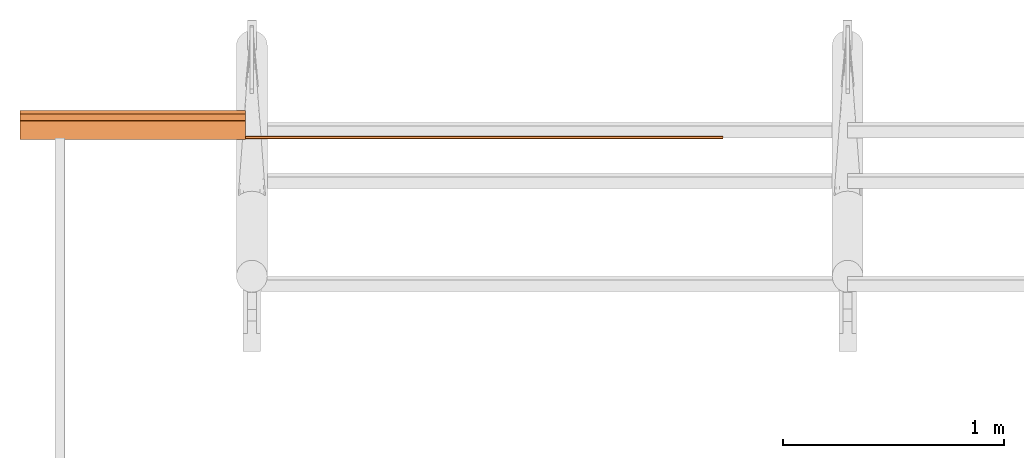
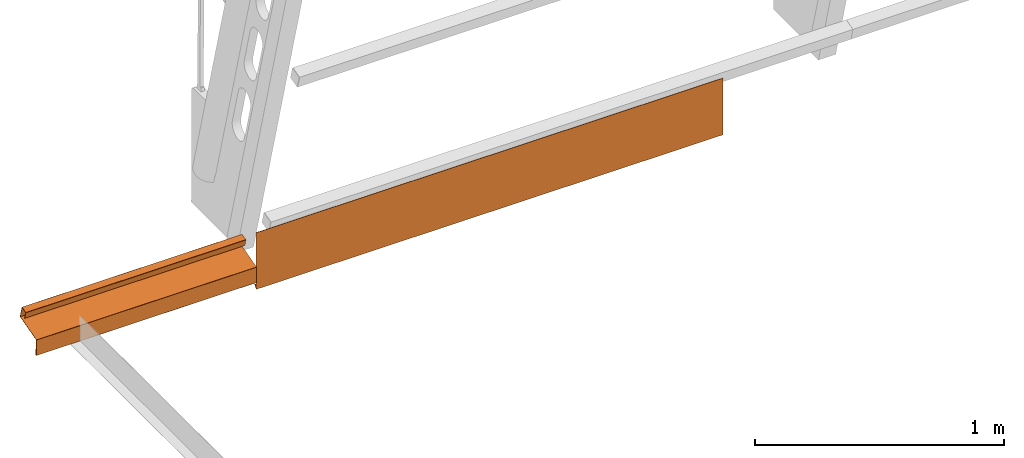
# One storey, part 1 of 3: 2 proxies.
"""IFC2X3 building model written with IfcOpenShell, lengths in millimetres."""

import ifcopenshell
import ifcopenshell.guid

model = None  # the IFC model being written
_history = None  # IfcOwnerHistory: only IFC2X3 demands one
_inside = {}  # id of a spatial element -> (the spatial element, [elements in it])
_under = {}  # id of a project, library or spatial element -> (it, [spatial elements below it])
_declared = {}  # id of a project -> (the project, [libraries it declares])
_typed = {}  # id of a type object -> (the type object, [elements of that type])
_made_of = {}  # id of a material, layer set ... -> (it, [elements and type objects made of it])


def new_model(schema):
    """Start an empty IFC model of exactly this schema.

    Asked for "IFC4X3", IfcOpenShell would pick the latest addendum, in which some entities
    have other attributes; the version numbers below select the first issue.
    IFC2X3 requires an IfcOwnerHistory on every rooted entity: one is made here for all.
    """
    global model, _history
    if schema == "IFC4X3":
        model = ifcopenshell.file(schema_version=(4, 3, 0, 0))
    else:
        model = ifcopenshell.file(schema=schema)
    _inside.clear()
    _under.clear()
    _declared.clear()
    _typed.clear()
    _made_of.clear()
    _history = None
    if model.schema == "IFC2X3":
        org = make("IfcOrganization", Name="unknown")
        user = make(
            "IfcPersonAndOrganization",
            ThePerson=make("IfcPerson", FamilyName="unknown"),
            TheOrganization=org,
        )
        app = make(
            "IfcApplication",
            ApplicationDeveloper=org,
            Version="unknown",
            ApplicationFullName="unknown",
            ApplicationIdentifier="unknown",
        )
        _history = make(
            "IfcOwnerHistory",
            OwningUser=user,
            OwningApplication=app,
            ChangeAction="ADDED",
            CreationDate=0,
        )
    return model


def make(cls, **values):
    """One entity of the class cls with the attributes given. An attribute that is None is left unset."""
    return model.create_entity(
        cls, **{name: value for name, value in values.items() if value is not None}
    )


def entity(cls, *values):
    """Any entity or typed value of the class cls, its attributes in the order of the schema. None: left unset."""
    e = model.create_entity(cls)
    for i, value in enumerate(values):
        if value is not None:
            e[i] = value
    return e


def rooted(cls, **values):
    """An entity with a GlobalId (a new one), such as an element, a storey or a relation."""
    return make(cls, GlobalId=ifcopenshell.guid.new(), OwnerHistory=_history, **values)


def si_unit(unit_type, name, prefix=None):
    """IfcSIUnit, for example si_unit("LENGTHUNIT", "METRE", prefix="MILLI")."""
    return make("IfcSIUnit", UnitType=unit_type, Prefix=prefix, Name=name)


def converted_unit(unit_type, name, factor, base, dimensions=None, offset=None):
    """IfcConversionBasedUnit, such as the inch: factor (a typed value) times the base unit."""
    return make(
        "IfcConversionBasedUnit"
        if offset is None
        else "IfcConversionBasedUnitWithOffset",
        ConversionOffset=offset,
        Dimensions=None
        if dimensions is None
        else entity("IfcDimensionalExponents", *dimensions),
        UnitType=unit_type,
        Name=name,
        ConversionFactor=make(
            "IfcMeasureWithUnit", ValueComponent=factor, UnitComponent=base
        ),
    )


def derived_unit(unit_type, elements):
    """IfcDerivedUnit: a product of units, each with its exponent."""
    return make(
        "IfcDerivedUnit",
        Elements=[
            make("IfcDerivedUnitElement", Unit=unit, Exponent=power)
            for unit, power in elements
        ],
        UnitType=unit_type,
    )


def assignment(units):
    """IfcUnitAssignment: the units of a project."""
    return None if units is None else make("IfcUnitAssignment", Units=units)


def point(xyz):
    """IfcCartesianPoint."""
    return None if xyz is None else make("IfcCartesianPoint", Coordinates=xyz)


def direction(xyz):
    """IfcDirection."""
    return None if xyz is None else make("IfcDirection", DirectionRatios=xyz)


def frame(location, z_axis=None, x_axis=None):
    """IfcAxis2Placement3D, a coordinate frame: its origin and axes. An axis left out is left unset."""
    return make(
        "IfcAxis2Placement3D",
        Location=point(location),
        Axis=direction(z_axis),
        RefDirection=direction(x_axis),
    )


def frame_2d(location, x_axis=None):
    """IfcAxis2Placement2D, a coordinate frame in the plane: its origin and x axis."""
    return make(
        "IfcAxis2Placement2D", Location=point(location), RefDirection=direction(x_axis)
    )


def origin():
    """The frame at (0, 0, 0) with its axes left unset."""
    return frame((0.0, 0.0, 0.0))


def origin_with_axes():
    """The frame at (0, 0, 0) with the z axis (0, 0, 1) and the x axis (1, 0, 0) written out."""
    return frame((0.0, 0.0, 0.0), z_axis=(0.0, 0.0, 1.0), x_axis=(1.0, 0.0, 0.0))


def place(relative_to, where):
    """IfcLocalPlacement: puts the frame where relative to a parent placement (None: the world)."""
    return make(
        "IfcLocalPlacement", PlacementRelTo=relative_to, RelativePlacement=where
    )


def context(
    kind, dimensions, precision=None, world=None, true_north=None, identifier=None
):
    """IfcGeometricRepresentationContext, for example the 3D "Model" context."""
    return make(
        "IfcGeometricRepresentationContext",
        ContextIdentifier=identifier,
        ContextType=kind,
        CoordinateSpaceDimension=dimensions,
        Precision=precision,
        WorldCoordinateSystem=world,
        TrueNorth=true_north,
    )


def subcontext(parent, identifier, kind, view, scale=None):
    """IfcGeometricRepresentationSubContext, for example "Body" below "Model"."""
    return make(
        "IfcGeometricRepresentationSubContext",
        ContextIdentifier=identifier,
        ContextType=kind,
        ParentContext=parent,
        TargetScale=scale,
        TargetView=view,
    )


def project(units=None, contexts=None):
    """IfcProject with its units and contexts."""
    return rooted(
        "IfcProject",
        Name="project",
        RepresentationContexts=contexts,
        UnitsInContext=assignment(units),
    )


def spatial(cls, under=None, at=None, **own):
    """A site, building, storey or space (cls), placed at a placement, below another one or the project."""
    s = rooted(cls, ObjectPlacement=at, **own)
    if under is not None:
        _under.setdefault(under.id(), (under, []))[1].append(s)
    return s


def polyline(points):
    """IfcPolyline through the points."""
    return make("IfcPolyline", Points=[point(p) for p in points])


def circle_curve(where, radius):
    """IfcCircle in the frame where."""
    return make("IfcCircle", Position=where, Radius=radius)


def parameter(value):
    """IfcParameterValue: where a trimmed curve begins or ends, as a parameter of its basis curve."""
    return model.create_entity("IfcParameterValue", value)


def trimmed(basis, trim1, trim2, sense, master):
    """IfcTrimmedCurve: the piece of a basis curve between two trims."""
    return make(
        "IfcTrimmedCurve",
        BasisCurve=basis,
        Trim1=trim1,
        Trim2=trim2,
        SenseAgreement=sense,
        MasterRepresentation=master,
    )


def segment(curve, same_sense, transition):
    """IfcCompositeCurveSegment."""
    return make(
        "IfcCompositeCurveSegment",
        Transition=transition,
        SameSense=same_sense,
        ParentCurve=curve,
    )


def composite_curve(segments, self_intersect=None):
    """IfcCompositeCurve: segments joined end to end."""
    return make("IfcCompositeCurve", Segments=segments, SelfIntersect=self_intersect)


def outline(outer, holes=None, kind="AREA"):
    """IfcArbitraryClosedProfileDef: a profile drawn as a closed curve; with holes, ...WithVoids."""
    if holes is None:
        return make("IfcArbitraryClosedProfileDef", ProfileType=kind, OuterCurve=outer)
    return make(
        "IfcArbitraryProfileDefWithVoids",
        ProfileType=kind,
        OuterCurve=outer,
        InnerCurves=holes,
    )


def extrude(swept, where, along, depth):
    """IfcExtrudedAreaSolid: the profile swept, set in the frame where, extruded along a direction by depth."""
    return make(
        "IfcExtrudedAreaSolid",
        SweptArea=swept,
        Position=where,
        ExtrudedDirection=direction(along),
        Depth=depth,
    )


def shape(context_of_items, identifier, shape_type, items):
    """IfcShapeRepresentation: the items that make up one representation, for example the "Body"."""
    return make(
        "IfcShapeRepresentation",
        ContextOfItems=context_of_items,
        RepresentationIdentifier=identifier,
        RepresentationType=shape_type,
        Items=items,
    )


def source(mapping_origin, context_of_items, identifier, shape_type, items):
    """IfcRepresentationMap: a shape defined once, which mapped items show again and again."""
    return make(
        "IfcRepresentationMap",
        MappingOrigin=mapping_origin,
        MappedRepresentation=shape(context_of_items, identifier, shape_type, items),
    )


def transform(
    local_origin,
    x_axis=None,
    y_axis=None,
    z_axis=None,
    scale=None,
    scale2=None,
    scale3=None,
    uniform=True,
):
    """IfcCartesianTransformationOperator3D, or its non-uniform kind. x_axis, y_axis, z_axis: its Axis1, 2, 3."""
    if uniform:
        return make(
            "IfcCartesianTransformationOperator3D",
            Axis1=direction(x_axis),
            Axis2=direction(y_axis),
            LocalOrigin=point(local_origin),
            Scale=scale,
            Axis3=direction(z_axis),
        )
    return make(
        "IfcCartesianTransformationOperator3DnonUniform",
        Axis1=direction(x_axis),
        Axis2=direction(y_axis),
        LocalOrigin=point(local_origin),
        Scale=scale,
        Axis3=direction(z_axis),
        Scale2=scale2,
        Scale3=scale3,
    )


def mapped(mapping_source, mapping_target):
    """IfcMappedItem: shows the shape of a source again, moved by a transform."""
    return make(
        "IfcMappedItem", MappingSource=mapping_source, MappingTarget=mapping_target
    )


def material(Name=None, Category=None):
    """IfcMaterial."""
    return make("IfcMaterial", Name=Name, Category=Category)


def made_of(thing, what):
    """Note that an element or type object is made of a material, layer set ...; save() writes the relation."""
    if what is not None:
        _made_of.setdefault(what.id(), (what, []))[1].append(thing)
    return thing


def type_object(cls, material=None, **own):
    """A type object (cls), such as IfcWallType, which elements share."""
    return made_of(rooted(cls, **own), material)


def element(
    cls,
    number,
    at=None,
    inside=None,
    cuts=None,
    type_object=None,
    material=None,
    context=None,
    identifier="Body",
    shape_type=None,
    held_by="IfcProductDefinitionShape",
    body=None,
    shapes=None,
    **own,
):
    """One element of the class cls, such as IfcWall. Its Tag is "e" and its number.

    at: its placement. inside: the storey or other place that contains it. cuts: it is an
    opening in that element (IfcRelVoidsElement). A single representation is given by context,
    identifier, shape_type and body (its items); several are given by shapes. held_by: the class
    of the entity that holds the representations. save() writes the other relations.
    """
    e = rooted(cls, Tag="e%d" % number, ObjectPlacement=at, **own)
    if body is not None:
        shapes = [shape(context, identifier, shape_type, body)]
    if shapes is not None:
        e.Representation = make(held_by, Representations=shapes)
    if inside is not None:
        _inside.setdefault(inside.id(), (inside, []))[1].append(e)
    if cuts is not None:
        rooted(
            "IfcRelVoidsElement", RelatingBuildingElement=cuts, RelatedOpeningElement=e
        )
    if type_object is not None:
        _typed.setdefault(type_object.id(), (type_object, []))[1].append(e)
    return made_of(e, material)


def aggregate(whole, parts):
    """IfcRelAggregates: a whole, such as a stair, and the parts it consists of."""
    return rooted("IfcRelAggregates", RelatingObject=whole, RelatedObjects=parts)


def save(model, path):
    """Write the relations noted so far, then the file.

    IfcRelAggregates (storeys below a building ...), IfcRelContainedInSpatialStructure (elements
    in a storey), IfcRelDefinesByType, IfcRelAssociatesMaterial and IfcRelDeclares: one each for
    every whole, place, type object, material and project.
    """
    for whole, parts in _under.values():
        aggregate(whole, parts)
    for where, things in _inside.values():
        rooted(
            "IfcRelContainedInSpatialStructure",
            RelatedElements=things,
            RelatingStructure=where,
        )
    for kind, things in _typed.values():
        rooted("IfcRelDefinesByType", RelatedObjects=things, RelatingType=kind)
    for what, things in _made_of.values():
        rooted("IfcRelAssociatesMaterial", RelatedObjects=things, RelatingMaterial=what)
    for by, libraries in _declared.values():
        rooted("IfcRelDeclares", RelatingContext=by, RelatedDefinitions=libraries)
    model.write(path)


model = new_model("IFC2X3")

# Units and contexts
model_context = context("Model", 3, precision=0.01, world=origin(), true_north=direction((6.12303176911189e-17, 1.0)))
plan_context = context("Plan", 3, precision=1e-05, world=origin_with_axes())
body_context = subcontext(model_context, "Body", "Model", "MODEL_VIEW")
ifc_project = project(units=[converted_unit("PLANEANGLEUNIT", "DEGREE", entity("IfcPositiveLengthMeasure", 0.0174532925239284), si_unit("PLANEANGLEUNIT", "RADIAN"), dimensions=[0, 0, 0, 0, 0, 0, 0]), si_unit("AREAUNIT", "SQUARE_METRE"), si_unit("LENGTHUNIT", "METRE", prefix="MILLI"), si_unit("MASSUNIT", "GRAM", prefix="KILO"), si_unit("POWERUNIT", "WATT"), si_unit("PRESSUREUNIT", "PASCAL"), si_unit("FORCEUNIT", "NEWTON", prefix="KILO"), si_unit("ELECTRICVOLTAGEUNIT", "VOLT"), si_unit("ELECTRICCURRENTUNIT", "AMPERE"), si_unit("THERMODYNAMICTEMPERATUREUNIT", "DEGREE_CELSIUS"), si_unit("TIMEUNIT", "SECOND"), si_unit("VOLUMEUNIT", "CUBIC_METRE"), derived_unit("LINEARVELOCITYUNIT", [(si_unit("LENGTHUNIT", "METRE"), 1), (si_unit("TIMEUNIT", "SECOND"), -1)]), derived_unit("VOLUMETRICFLOWRATEUNIT", [(si_unit("VOLUMEUNIT", "CUBIC_METRE"), 1), (si_unit("TIMEUNIT", "SECOND"), -1)]), derived_unit("THERMALTRANSMITTANCEUNIT", [(si_unit("POWERUNIT", "WATT"), 1), (si_unit("THERMODYNAMICTEMPERATUREUNIT", "KELVIN"), -1), (si_unit("AREAUNIT", "SQUARE_METRE"), -1)]), derived_unit("SOUNDPRESSUREUNIT", [(si_unit("PRESSUREUNIT", "PASCAL"), 1)])], contexts=[model_context, plan_context])

# Site, building, storey
site_placement = place(None, frame((2314154.5009392, 1029894.10887124, 0.0), z_axis=(0.0, 0.0, 1.0), x_axis=(1.0, 0.0, 0.0)))
site = spatial("IfcSite", under=ifc_project, at=site_placement, Name="Default", CompositionType="ELEMENT")
building_placement = place(site_placement, origin_with_axes())
building = spatial("IfcBuilding", under=site, at=building_placement, CompositionType="ELEMENT")
storey_placement = place(building_placement, frame((0.0, 0.0, 9050.0), z_axis=(0.0, 0.0, 1.0), x_axis=(1.0, 0.0, 0.0)))
storey = spatial("IfcBuildingStorey", under=building, at=storey_placement, Name="XX - C +9,05", CompositionType="ELEMENT", Elevation=9050.0)

# Proxies
ifc_material = material(Name="<Unnamed>")
building_element_proxy_type_1 = type_object("IfcBuildingElementProxyType", Name="Generic Models 5:Generic Models 5", PredefinedType="NOTDEFINED", material=ifc_material)
shared_shape_1 = source(origin(), body_context, "Body", "SweptSolid", [
    extrude(outline(composite_curve([segment(polyline([(-45.2816438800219, 13.6691079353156), (88.2727627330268, 13.669107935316)]), True, "CONTINUOUS"), segment(trimmed(circle_curve(frame_2d((88.2727627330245, 15.6691079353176), x_axis=(0.963929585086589, -0.26615738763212)), 2.0), [parameter(285.435736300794)], [parameter(14.9207188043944)], True, "PARAMETER"), True, "CONTINUOUS"), segment(polyline([(90.2726819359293, 15.6511306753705), (90.7637006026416, 70.2755652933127)]), True, "CONTINUOUS"), segment(trimmed(circle_curve(frame_2d((88.7637813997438, 70.2935425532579), x_axis=(0.963929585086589, -0.26615738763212)), 2.0), [parameter(14.9207188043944)], [parameter(104.941409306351)], True, "PARAMETER"), True, "CONTINUOUS"), segment(polyline([(88.7810364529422, 72.2934681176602), (59.5420928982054, 72.5457372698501)]), True, "CONTINUOUS"), segment(trimmed(circle_curve(frame_2d((59.0097781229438, 70.6178780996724), x_axis=(0.963929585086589, -0.26615738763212)), 2.0), [parameter(90.0000000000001)], [parameter(195.0)], True, "PARAMETER"), True, "CONTINUOUS"), segment(polyline([(57.0098359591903, 70.6330880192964), (56.7665660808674, 38.6456943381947)]), True, "CONTINUOUS"), segment(polyline([(56.7665660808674, 38.6456943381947), (58.7665082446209, 38.6304844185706)]), True, "CONTINUOUS"), segment(polyline([(58.7665082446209, 38.6304844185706), (59.0092638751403, 70.5502599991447)]), True, "CONTINUOUS"), segment(polyline([(59.0092638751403, 70.5502599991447), (88.7637813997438, 70.2935425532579)]), True, "CONTINUOUS"), segment(polyline([(88.7637813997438, 70.2935425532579), (88.272762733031, 15.6691079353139)]), True, "CONTINUOUS"), segment(polyline([(88.272762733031, 15.6691079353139), (-45.2816438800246, 15.6691079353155)]), True, "CONTINUOUS"), segment(trimmed(circle_curve(frame_2d((-45.2816438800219, 13.6691079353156), x_axis=(0.963929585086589, -0.26615738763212)), 2.0), [parameter(105.435736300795)], [parameter(180.0)], True, "PARAMETER"), True, "CONTINUOUS"), segment(polyline([(-47.2095030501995, 14.2014227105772), (-66.7259695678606, -56.4804382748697)]), True, "CONTINUOUS"), segment(polyline([(-66.7259695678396, -56.4804382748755), (-66.7505385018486, -57.881765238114)]), True, "CONTINUOUS"), segment(polyline([(-66.7505385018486, -57.881765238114), (-66.0960955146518, -59.1479977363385)]), True, "CONTINUOUS"), segment(polyline([(-66.0960955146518, -59.1479977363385), (-64.9125656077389, -59.9890571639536)]), True, "CONTINUOUS"), segment(polyline([(-64.9125656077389, -59.9890571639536), (-63.4710812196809, -60.2122669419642)]), True, "CONTINUOUS"), segment(polyline([(-63.4710812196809, -60.2122669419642), (-62.1018690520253, -59.766492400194)]), True, "CONTINUOUS"), segment(polyline([(-62.1018690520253, -59.766492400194), (-60.9901456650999, -58.6215651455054)]), True, "CONTINUOUS"), segment(polyline([(-60.9901456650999, -58.6215651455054), (-53.9494796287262, -33.1227189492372)]), True, "CONTINUOUS"), segment(polyline([(-53.9494796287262, -33.1227189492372), (-55.8773387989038, -32.5904041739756)]), True, "CONTINUOUS"), segment(polyline([(-55.8773387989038, -32.5904041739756), (-62.7750081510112, -57.571366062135)]), True, "CONTINUOUS"), segment(polyline([(-62.7750081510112, -57.571366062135), (-64.7981103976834, -57.012753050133)]), True, "CONTINUOUS"), segment(polyline([(-64.7981103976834, -57.012753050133), (-45.2816438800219, 13.6691079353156)]), True, "CONTINUOUS")], self_intersect=False)), frame((103008.83394735, -38927.0979818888, 9235.12393288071), z_axis=(1.0, 0.0, 0.0), x_axis=(0.0, 0.963929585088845, 0.266157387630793)), (0.0, 0.0, 1.0), 1021.49999999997),
])
proxy_1_placement = place(storey_placement, frame((0.0, 0.0, -9050.0), z_axis=(0.0, 0.0, 1.0), x_axis=(1.0, 0.0, 0.0)))
element("IfcBuildingElementProxy", 1, at=proxy_1_placement, inside=storey, type_object=building_element_proxy_type_1, material=ifc_material, Name="Generic Models 5:Generic Models 5", ObjectType="Generic Models 5:Generic Models 5", context=body_context, shape_type="MappedRepresentation", body=[
    mapped(shared_shape_1, transform((0.0, 0.0, 0.0), scale=1.0)),
])
building_element_proxy_type_2 = type_object("IfcBuildingElementProxyType", Name="Generic Models 6:Generic Models 6", PredefinedType="NOTDEFINED", material=ifc_material)
shared_shape_2 = source(origin(), body_context, "Body", "SweptSolid", [
    extrude(outline(polyline([(-85.4516460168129, -52.2051307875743), (-63.5769783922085, -52.2051307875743), (-63.1882177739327, -50.2051307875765), (-78.9099407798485, -50.2051307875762), (146.122584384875, 101.581224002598), (145.004198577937, 103.239299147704), (-85.4516460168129, -52.2051307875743)])), frame((104030.33394735, -38967.9402902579, 9225.94363550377), z_axis=(1.0, 0.0, 0.0), x_axis=(0.0, 0.55919290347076, 0.829037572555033)), (0.0, 0.0, 1.0), 2165.77773195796),
])
proxy_2_placement = place(storey_placement, frame((0.0, 0.0, -9050.0), z_axis=(0.0, 0.0, 1.0), x_axis=(1.0, 0.0, 0.0)))
element("IfcBuildingElementProxy", 2, at=proxy_2_placement, inside=storey, type_object=building_element_proxy_type_2, material=ifc_material, Name="Generic Models 6:Generic Models 6", ObjectType="Generic Models 6:Generic Models 6", context=body_context, shape_type="MappedRepresentation", body=[
    mapped(shared_shape_2, transform((0.0, 0.0, 0.0), scale=1.0)),
])

save(model, "model.ifc")
